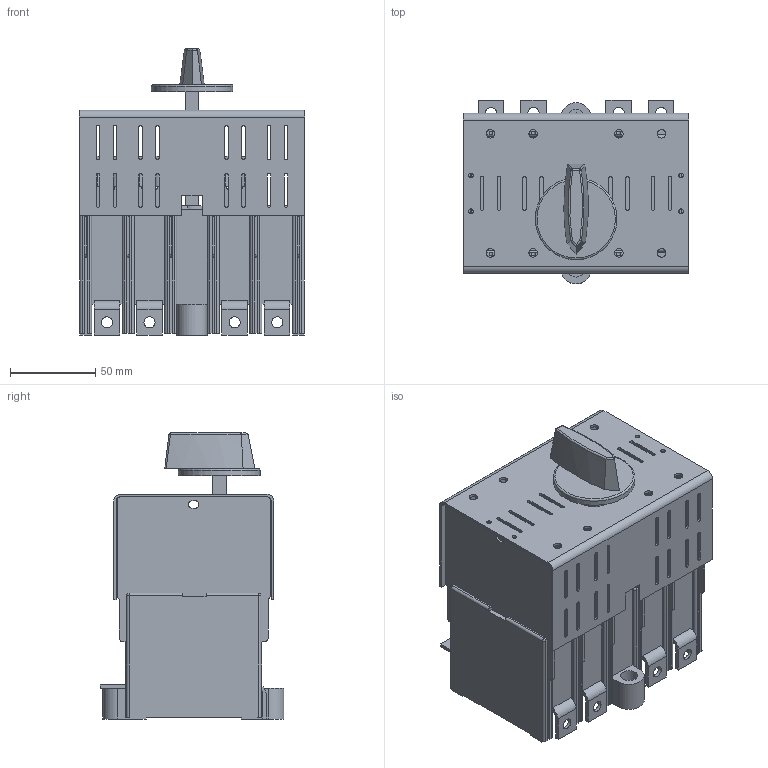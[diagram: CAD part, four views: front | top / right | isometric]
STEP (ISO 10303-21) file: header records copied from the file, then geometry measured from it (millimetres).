
FILE_DESCRIPTION(/* description */ (''),/* implementation_level */ '2;1');
FILE_NAME(/* name */ 'RAB 000 P3 NB-R, P4 B-R.stp',/* time_stamp */ '2021-08-19T10:35:30+02:00',/* author */ (''),/* organization */ (''),/* preprocessor_version */ 'ST-DEVELOPER v18.1',/* originating_system */ 'SIEMENS PLM Software NX 1965',/* authorisation */ '');
FILE_SCHEMA (('AUTOMOTIVE_DESIGN { 1 0 10303 214 3 1 1 1 }'));
Length unit declared in the file: millimetre
Products named in the file (1): RAB 000 P3 NB-R, P4 B-R_stp
Bounding box: 132.5 x 108 x 168 mm (x, y, z)
Volume: 756140 mm3; surface area: 214671.2 mm2
Topology: 1 solids, 1 shells, 1044 faces, 2949 edges, 1887 vertices
Faces by surface type: plane 666, cylinder 345, sphere 25, bspline 7, torus 1
Full cylindrical faces by diameter (mm): 2.7 x4, 5 x8, 5.8 x2, 6.5 x8, 10 x2, 20 x1, 48 x1
Entity records: 33646 total; most frequent: CARTESIAN_POINT 6302, ORIENTED_EDGE 5768, DIRECTION 5544, EDGE_CURVE 2884, LINE 2106, VECTOR 2106, VERTEX_POINT 1875, AXIS2_PLACEMENT_3D 1719
